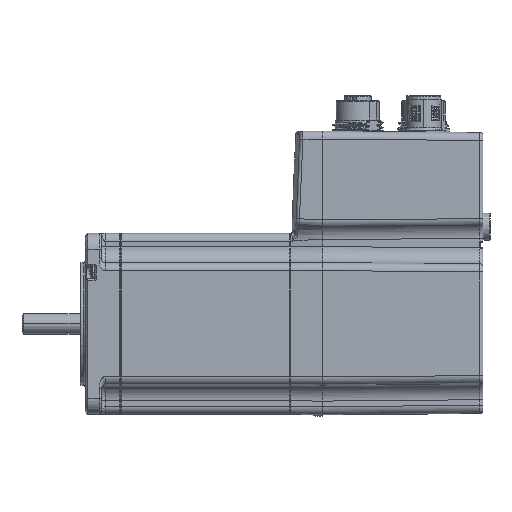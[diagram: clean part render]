
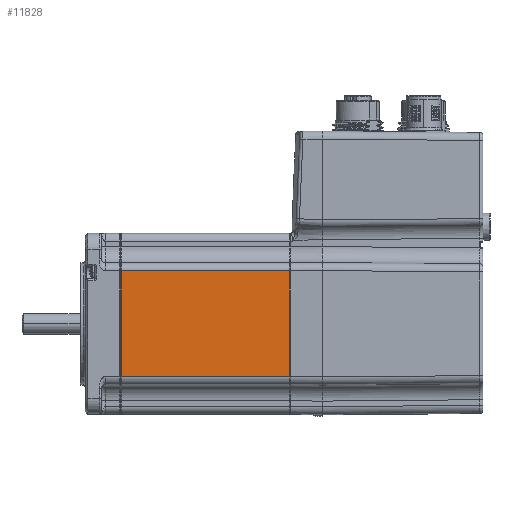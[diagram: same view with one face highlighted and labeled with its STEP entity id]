
A CAD part, top view. The second image highlights one B-rep face of the part: STEP entity #11828.
In plain terms, the highlighted planar face has unit normal (0, 0, 1) as drawn and (1, 0, 0) by its records, which use the part's own axes.
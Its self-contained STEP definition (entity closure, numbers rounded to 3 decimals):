
#10487=DIRECTION('',(0.,0.,-1.));
#10488=VECTOR('',#10487,52.6);
#10489=CARTESIAN_POINT('',(56.2,-11.5,31.8));
#10490=LINE('',#10489,#10488);
#10494=DIRECTION('',(0.,-1.,0.));
#10495=VECTOR('',#10494,33.);
#10496=CARTESIAN_POINT('',(56.2,-11.5,31.8));
#10497=LINE('',#10496,#10495);
#10501=DIRECTION('',(0.,-1.,0.));
#10502=VECTOR('',#10501,33.);
#10503=CARTESIAN_POINT('',(56.2,-11.5,-20.8));
#10504=LINE('',#10503,#10502);
#10532=DIRECTION('',(0.,0.,1.));
#10533=VECTOR('',#10532,52.6);
#10534=CARTESIAN_POINT('',(56.2,-44.5,-20.8));
#10535=LINE('',#10534,#10533);
#10896=CARTESIAN_POINT('',(56.2,-11.5,31.8));
#10897=VERTEX_POINT('',#10896);
#10900=CARTESIAN_POINT('',(56.2,-44.5,31.8));
#10901=VERTEX_POINT('',#10900);
#10994=CARTESIAN_POINT('',(56.2,-11.5,-20.8));
#10995=VERTEX_POINT('',#10994);
#10998=CARTESIAN_POINT('',(56.2,-44.5,-20.8));
#10999=VERTEX_POINT('',#10998);
#11815=CARTESIAN_POINT('',(56.2,-44.5,111.762));
#11816=DIRECTION('',(-1.,0.,0.));
#11817=DIRECTION('',(0.,0.,1.));
#11818=AXIS2_PLACEMENT_3D('',#11815,#11816,#11817);
#11819=PLANE('',#11818);
#11821=ORIENTED_EDGE('',*,*,#11820,.F.);
#11822=ORIENTED_EDGE('',*,*,#11810,.T.);
#11823=ORIENTED_EDGE('',*,*,#11277,.T.);
#11825=ORIENTED_EDGE('',*,*,#11824,.T.);
#11826=EDGE_LOOP('',(#11821,#11822,#11823,#11825));
#11827=FACE_OUTER_BOUND('',#11826,.F.);
#11277=EDGE_CURVE('',#10995,#10999,#10504,.T.);
#11810=EDGE_CURVE('',#10897,#10995,#10490,.T.);
#11820=EDGE_CURVE('',#10897,#10901,#10497,.T.);
#11824=EDGE_CURVE('',#10999,#10901,#10535,.T.);
#11828=ADVANCED_FACE('',(#11827),#11819,.F.);
